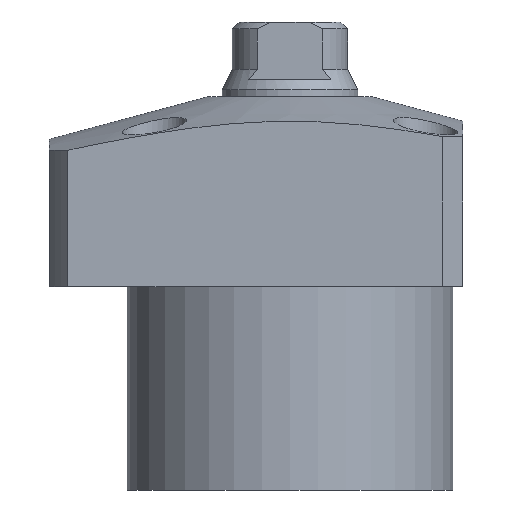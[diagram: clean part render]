
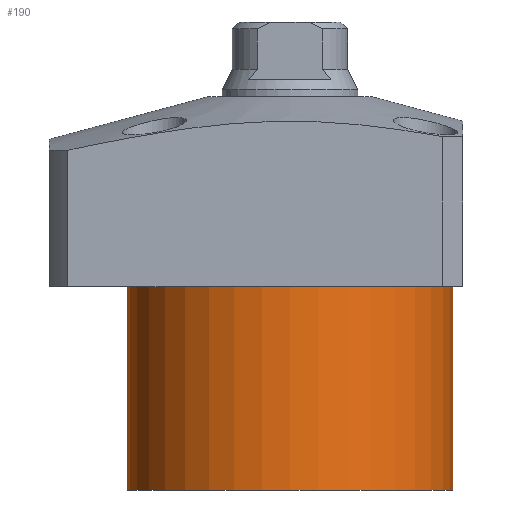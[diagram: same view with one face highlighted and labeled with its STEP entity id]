
A CAD part, front view. The second image highlights one B-rep face of the part: STEP entity #190.
In plain terms, the highlighted cylindrical face has radius 24 mm (diameter 48 mm), a partial arc.
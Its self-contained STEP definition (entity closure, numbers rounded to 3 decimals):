
#36 = ORIENTED_EDGE ( 'NONE', *, *, #1462, .F. ) ;
#190 = ADVANCED_FACE ( 'NONE', ( #1741 ), #1476, .T. ) ;
#262 = DIRECTION ( 'NONE',  ( 0., 0., -1. ) ) ;
#276 = VECTOR ( 'NONE', #1784, 1000. ) ;
#314 = CARTESIAN_POINT ( 'NONE',  ( -24., 0., -44. ) ) ;
#373 = EDGE_LOOP ( 'NONE', ( #2145, #36, #969, #428 ) ) ;
#428 = ORIENTED_EDGE ( 'NONE', *, *, #2072, .T. ) ;
#450 = DIRECTION ( 'NONE',  ( 0., 0., -1. ) ) ;
#532 = LINE ( 'NONE', #1739, #1808 ) ;
#575 = DIRECTION ( 'NONE',  ( 0., 0., 1. ) ) ;
#592 = VERTEX_POINT ( 'NONE', #314 ) ;
#746 = VERTEX_POINT ( 'NONE', #1865 ) ;
#814 = CIRCLE ( 'NONE', #2246, 24. ) ;
#818 = CARTESIAN_POINT ( 'NONE',  ( 0., 0., -14. ) ) ;
#851 = LINE ( 'NONE', #1172, #276 ) ;
#882 = CIRCLE ( 'NONE', #1922, 24. ) ;
#889 = EDGE_CURVE ( 'NONE', #592, #746, #532, .T. ) ;
#924 = EDGE_CURVE ( 'NONE', #1860, #1093, #851, .T. ) ;
#969 = ORIENTED_EDGE ( 'NONE', *, *, #924, .T. ) ;
#1024 = DIRECTION ( 'NONE',  ( 1., 0., 0. ) ) ;
#1048 = DIRECTION ( 'NONE',  ( 1., 0., 0. ) ) ;
#1093 = VERTEX_POINT ( 'NONE', #2371 ) ;
#1172 = CARTESIAN_POINT ( 'NONE',  ( 24., 0., -44. ) ) ;
#1242 = DIRECTION ( 'NONE',  ( 0., 0., 1. ) ) ;
#1462 = EDGE_CURVE ( 'NONE', #1860, #592, #882, .T. ) ;
#1476 = CYLINDRICAL_SURFACE ( 'NONE', #2470, 24. ) ;
#1570 = CARTESIAN_POINT ( 'NONE',  ( 0., 0., -44. ) ) ;
#1739 = CARTESIAN_POINT ( 'NONE',  ( -24., 0., -44. ) ) ;
#1741 = FACE_OUTER_BOUND ( 'NONE', #373, .T. ) ;
#1762 = DIRECTION ( 'NONE',  ( -1., 0., 0. ) ) ;
#1784 = DIRECTION ( 'NONE',  ( 0., 0., 1. ) ) ;
#1808 = VECTOR ( 'NONE', #575, 1000. ) ;
#1860 = VERTEX_POINT ( 'NONE', #2268 ) ;
#1865 = CARTESIAN_POINT ( 'NONE',  ( -24., 0., -14. ) ) ;
#1922 = AXIS2_PLACEMENT_3D ( 'NONE', #1570, #262, #1762 ) ;
#2072 = EDGE_CURVE ( 'NONE', #1093, #746, #814, .T. ) ;
#2145 = ORIENTED_EDGE ( 'NONE', *, *, #889, .F. ) ;
#2246 = AXIS2_PLACEMENT_3D ( 'NONE', #818, #450, #1024 ) ;
#2268 = CARTESIAN_POINT ( 'NONE',  ( 24., 0., -44. ) ) ;
#2363 = CARTESIAN_POINT ( 'NONE',  ( 0., 0., -44. ) ) ;
#2371 = CARTESIAN_POINT ( 'NONE',  ( 24., 0., -14. ) ) ;
#2470 = AXIS2_PLACEMENT_3D ( 'NONE', #2363, #1242, #1048 ) ;
